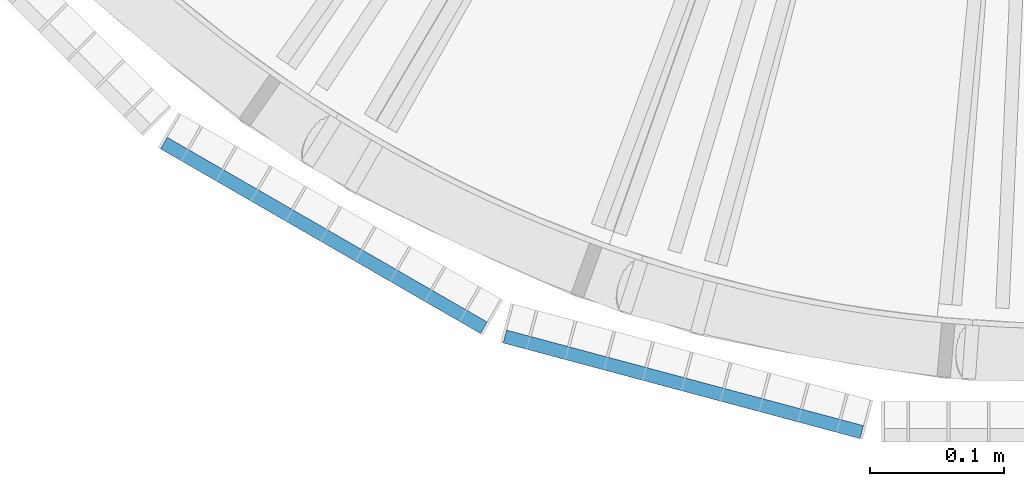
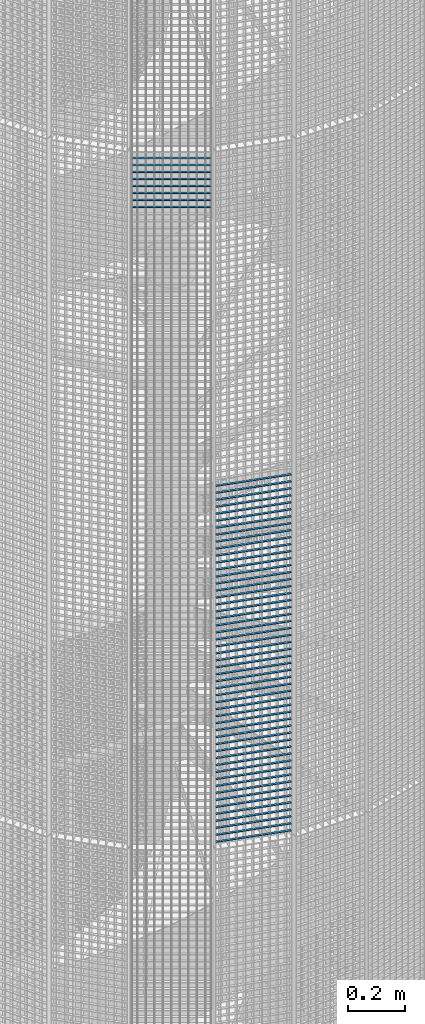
# One storey, part 144 of 1148: 60 beams, 2 elements without a shape of their own.
"""IFC2X3 building model written with IfcOpenShell, lengths in millimetres."""

import ifcopenshell
import ifcopenshell.guid

model = None  # the IFC model being written
_history = None  # IfcOwnerHistory: only IFC2X3 demands one
_inside = {}  # id of a spatial element -> (the spatial element, [elements in it])
_under = {}  # id of a project, library or spatial element -> (it, [spatial elements below it])
_declared = {}  # id of a project -> (the project, [libraries it declares])
_typed = {}  # id of a type object -> (the type object, [elements of that type])
_made_of = {}  # id of a material, layer set ... -> (it, [elements and type objects made of it])


def new_model(schema):
    """Start an empty IFC model of exactly this schema.

    Asked for "IFC4X3", IfcOpenShell would pick the latest addendum, in which some entities
    have other attributes; the version numbers below select the first issue.
    IFC2X3 requires an IfcOwnerHistory on every rooted entity: one is made here for all.
    """
    global model, _history
    if schema == "IFC4X3":
        model = ifcopenshell.file(schema_version=(4, 3, 0, 0))
    else:
        model = ifcopenshell.file(schema=schema)
    _inside.clear()
    _under.clear()
    _declared.clear()
    _typed.clear()
    _made_of.clear()
    _history = None
    if model.schema == "IFC2X3":
        org = make("IfcOrganization", Name="unknown")
        user = make(
            "IfcPersonAndOrganization",
            ThePerson=make("IfcPerson", FamilyName="unknown"),
            TheOrganization=org,
        )
        app = make(
            "IfcApplication",
            ApplicationDeveloper=org,
            Version="unknown",
            ApplicationFullName="unknown",
            ApplicationIdentifier="unknown",
        )
        _history = make(
            "IfcOwnerHistory",
            OwningUser=user,
            OwningApplication=app,
            ChangeAction="ADDED",
            CreationDate=0,
        )
    return model


def make(cls, **values):
    """One entity of the class cls with the attributes given. An attribute that is None is left unset."""
    return model.create_entity(
        cls, **{name: value for name, value in values.items() if value is not None}
    )


def rooted(cls, **values):
    """An entity with a GlobalId (a new one), such as an element, a storey or a relation."""
    return make(cls, GlobalId=ifcopenshell.guid.new(), OwnerHistory=_history, **values)


def si_unit(unit_type, name, prefix=None):
    """IfcSIUnit, for example si_unit("LENGTHUNIT", "METRE", prefix="MILLI")."""
    return make("IfcSIUnit", UnitType=unit_type, Prefix=prefix, Name=name)


def assignment(units):
    """IfcUnitAssignment: the units of a project."""
    return None if units is None else make("IfcUnitAssignment", Units=units)


def point(xyz):
    """IfcCartesianPoint."""
    return None if xyz is None else make("IfcCartesianPoint", Coordinates=xyz)


def direction(xyz):
    """IfcDirection."""
    return None if xyz is None else make("IfcDirection", DirectionRatios=xyz)


def frame(location, z_axis=None, x_axis=None):
    """IfcAxis2Placement3D, a coordinate frame: its origin and axes. An axis left out is left unset."""
    return make(
        "IfcAxis2Placement3D",
        Location=point(location),
        Axis=direction(z_axis),
        RefDirection=direction(x_axis),
    )


def frame_2d(location, x_axis=None):
    """IfcAxis2Placement2D, a coordinate frame in the plane: its origin and x axis."""
    return make(
        "IfcAxis2Placement2D", Location=point(location), RefDirection=direction(x_axis)
    )


def origin_with_axes():
    """The frame at (0, 0, 0) with the z axis (0, 0, 1) and the x axis (1, 0, 0) written out."""
    return frame((0.0, 0.0, 0.0), z_axis=(0.0, 0.0, 1.0), x_axis=(1.0, 0.0, 0.0))


def origin_2d_with_axis():
    """The frame at (0, 0) in the plane with the x axis (1, 0) written out."""
    return frame_2d((0.0, 0.0), x_axis=(1.0, 0.0))


def place(relative_to, where):
    """IfcLocalPlacement: puts the frame where relative to a parent placement (None: the world)."""
    return make(
        "IfcLocalPlacement", PlacementRelTo=relative_to, RelativePlacement=where
    )


def context(
    kind, dimensions, precision=None, world=None, true_north=None, identifier=None
):
    """IfcGeometricRepresentationContext, for example the 3D "Model" context."""
    return make(
        "IfcGeometricRepresentationContext",
        ContextIdentifier=identifier,
        ContextType=kind,
        CoordinateSpaceDimension=dimensions,
        Precision=precision,
        WorldCoordinateSystem=world,
        TrueNorth=true_north,
    )


def subcontext(parent, identifier, kind, view, scale=None):
    """IfcGeometricRepresentationSubContext, for example "Body" below "Model"."""
    return make(
        "IfcGeometricRepresentationSubContext",
        ContextIdentifier=identifier,
        ContextType=kind,
        ParentContext=parent,
        TargetScale=scale,
        TargetView=view,
    )


def project(units=None, contexts=None):
    """IfcProject with its units and contexts."""
    return rooted(
        "IfcProject",
        Name="project",
        RepresentationContexts=contexts,
        UnitsInContext=assignment(units),
    )


def spatial(cls, under=None, at=None, **own):
    """A site, building, storey or space (cls), placed at a placement, below another one or the project."""
    s = rooted(cls, ObjectPlacement=at, **own)
    if under is not None:
        _under.setdefault(under.id(), (under, []))[1].append(s)
    return s


def profile(cls, at=None, kind="AREA", **sizes):
    """A parametric profile (cls). Its sizes go by their IFC names, for example OverallWidth=200.0."""
    return make(cls, ProfileType=kind, Position=at, **sizes)


def rectangle(**sizes):
    """IfcRectangleProfileDef."""
    return profile("IfcRectangleProfileDef", **sizes)


def extrude(swept, where, along, depth):
    """IfcExtrudedAreaSolid: the profile swept, set in the frame where, extruded along a direction by depth."""
    return make(
        "IfcExtrudedAreaSolid",
        SweptArea=swept,
        Position=where,
        ExtrudedDirection=direction(along),
        Depth=depth,
    )


def shape(context_of_items, identifier, shape_type, items):
    """IfcShapeRepresentation: the items that make up one representation, for example the "Body"."""
    return make(
        "IfcShapeRepresentation",
        ContextOfItems=context_of_items,
        RepresentationIdentifier=identifier,
        RepresentationType=shape_type,
        Items=items,
    )


def material(Name=None, Category=None):
    """IfcMaterial."""
    return make("IfcMaterial", Name=Name, Category=Category)


def made_of(thing, what):
    """Note that an element or type object is made of a material, layer set ...; save() writes the relation."""
    if what is not None:
        _made_of.setdefault(what.id(), (what, []))[1].append(thing)
    return thing


def type_object(cls, material=None, **own):
    """A type object (cls), such as IfcWallType, which elements share."""
    return made_of(rooted(cls, **own), material)


def element(
    cls,
    number,
    at=None,
    inside=None,
    cuts=None,
    type_object=None,
    material=None,
    context=None,
    identifier="Body",
    shape_type=None,
    held_by="IfcProductDefinitionShape",
    body=None,
    shapes=None,
    **own,
):
    """One element of the class cls, such as IfcWall. Its Tag is "e" and its number.

    at: its placement. inside: the storey or other place that contains it. cuts: it is an
    opening in that element (IfcRelVoidsElement). A single representation is given by context,
    identifier, shape_type and body (its items); several are given by shapes. held_by: the class
    of the entity that holds the representations. save() writes the other relations.
    """
    e = rooted(cls, Tag="e%d" % number, ObjectPlacement=at, **own)
    if body is not None:
        shapes = [shape(context, identifier, shape_type, body)]
    if shapes is not None:
        e.Representation = make(held_by, Representations=shapes)
    if inside is not None:
        _inside.setdefault(inside.id(), (inside, []))[1].append(e)
    if cuts is not None:
        rooted(
            "IfcRelVoidsElement", RelatingBuildingElement=cuts, RelatedOpeningElement=e
        )
    if type_object is not None:
        _typed.setdefault(type_object.id(), (type_object, []))[1].append(e)
    return made_of(e, material)


def aggregate(whole, parts):
    """IfcRelAggregates: a whole, such as a stair, and the parts it consists of."""
    return rooted("IfcRelAggregates", RelatingObject=whole, RelatedObjects=parts)


def save(model, path):
    """Write the relations noted so far, then the file.

    IfcRelAggregates (storeys below a building ...), IfcRelContainedInSpatialStructure (elements
    in a storey), IfcRelDefinesByType, IfcRelAssociatesMaterial and IfcRelDeclares: one each for
    every whole, place, type object, material and project.
    """
    for whole, parts in _under.values():
        aggregate(whole, parts)
    for where, things in _inside.values():
        rooted(
            "IfcRelContainedInSpatialStructure",
            RelatedElements=things,
            RelatingStructure=where,
        )
    for kind, things in _typed.values():
        rooted("IfcRelDefinesByType", RelatedObjects=things, RelatingType=kind)
    for what, things in _made_of.values():
        rooted("IfcRelAssociatesMaterial", RelatedObjects=things, RelatingMaterial=what)
    for by, libraries in _declared.values():
        rooted("IfcRelDeclares", RelatingContext=by, RelatedDefinitions=libraries)
    model.write(path)


model = new_model("IFC2X3")

# Units and contexts
model_context = context("Model", 3, precision=1e-05, world=origin_with_axes())
body_context = subcontext(model_context, "Body", "Model", "MODEL_VIEW")
ifc_project = project(units=[si_unit("LENGTHUNIT", "METRE", prefix="MILLI"), si_unit("AREAUNIT", "SQUARE_METRE"), si_unit("VOLUMEUNIT", "CUBIC_METRE"), si_unit("MASSUNIT", "GRAM", prefix="KILO"), si_unit("TIMEUNIT", "SECOND"), si_unit("PLANEANGLEUNIT", "RADIAN"), si_unit("SOLIDANGLEUNIT", "STERADIAN"), si_unit("THERMODYNAMICTEMPERATUREUNIT", "DEGREE_CELSIUS"), si_unit("LUMINOUSINTENSITYUNIT", "LUMEN")], contexts=[model_context])

# Site, building, storey
site_placement = place(None, origin_with_axes())
site = spatial("IfcSite", under=ifc_project, at=site_placement, Name="Undefined", CompositionType="ELEMENT")
building_placement = place(site_placement, origin_with_axes())
building = spatial("IfcBuilding", under=site, at=building_placement, Name="Undefined", CompositionType="ELEMENT")
storey_placement = place(building_placement, origin_with_axes())
storey = spatial("IfcBuildingStorey", under=building, at=storey_placement, Name="Undefined", CompositionType="ELEMENT", Elevation=0.0)

# Assembly, beams
assembly_1_placement = place(storey_placement, origin_with_axes())
assembly_1 = element("IfcElementAssembly", 1, at=assembly_1_placement, inside=storey, Name="BORDURE", AssemblyPlace="NOTDEFINED", PredefinedType="NOTDEFINED")
ifc_material = material(Name="STEEL/S235JR")
beam_type = type_object("IfcBeamType", Name="PL2*10", PredefinedType="NOTDEFINED")
beam_1_placement = place(assembly_1_placement, frame((-421.483733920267, -1039.82309522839, 13560.0), z_axis=(-0.258819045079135, -0.965925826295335, 0.0), x_axis=(0.965925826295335, -0.258819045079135, 0.0)))
beam_1 = element("IfcBeam", 2, at=beam_1_placement, type_object=beam_type, material=ifc_material, Name="ENTRETOISE", context=body_context, shape_type="SweptSolid", body=[
    extrude(rectangle(XDim=2.0, YDim=10.0, at=origin_2d_with_axis()), frame((275.999999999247, 9.09494701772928e-13, 1.53210777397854e-14), z_axis=(-1.0, 0.0, 0.0), x_axis=(0.0, -1.0, 0.0)), (0.0, 0.0, 1.0), 276.0),
])
beam_2_placement = place(assembly_1_placement, frame((-421.483733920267, -1039.82309522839, 13530.0), z_axis=(-0.258819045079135, -0.965925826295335, 0.0), x_axis=(0.965925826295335, -0.258819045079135, 0.0)))
beam_2 = element("IfcBeam", 3, at=beam_2_placement, type_object=beam_type, material=ifc_material, Name="ENTRETOISE", context=body_context, shape_type="SweptSolid", body=[
    extrude(rectangle(XDim=2.0, YDim=10.0, at=origin_2d_with_axis()), frame((275.999999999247, 9.09494701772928e-13, 1.53210777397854e-14), z_axis=(-1.0, 0.0, 0.0), x_axis=(0.0, -1.0, 0.0)), (0.0, 0.0, 1.0), 276.0),
])
beam_3_placement = place(assembly_1_placement, frame((-421.483733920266, -1039.82309522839, 13500.0), z_axis=(-0.258819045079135, -0.965925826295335, 0.0), x_axis=(0.965925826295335, -0.258819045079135, 0.0)))
beam_3 = element("IfcBeam", 4, at=beam_3_placement, type_object=beam_type, material=ifc_material, Name="ENTRETOISE", context=body_context, shape_type="SweptSolid", body=[
    extrude(rectangle(XDim=2.0, YDim=10.0, at=origin_2d_with_axis()), frame((275.999999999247, 9.09494701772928e-13, 1.53210777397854e-14), z_axis=(-1.0, 0.0, 0.0), x_axis=(0.0, -1.0, 0.0)), (0.0, 0.0, 1.0), 276.0),
])
beam_4_placement = place(assembly_1_placement, frame((-421.483733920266, -1039.82309522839, 13470.0), z_axis=(-0.258819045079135, -0.965925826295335, 0.0), x_axis=(0.965925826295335, -0.258819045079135, 0.0)))
beam_4 = element("IfcBeam", 5, at=beam_4_placement, type_object=beam_type, material=ifc_material, Name="ENTRETOISE", context=body_context, shape_type="SweptSolid", body=[
    extrude(rectangle(XDim=2.0, YDim=10.0, at=origin_2d_with_axis()), frame((275.999999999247, 9.09494701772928e-13, 1.53210777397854e-14), z_axis=(-1.0, 0.0, 0.0), x_axis=(0.0, -1.0, 0.0)), (0.0, 0.0, 1.0), 276.0),
])
beam_5_placement = place(assembly_1_placement, frame((-421.483733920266, -1039.82309522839, 13440.0), z_axis=(-0.258819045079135, -0.965925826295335, 0.0), x_axis=(0.965925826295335, -0.258819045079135, 0.0)))
beam_5 = element("IfcBeam", 6, at=beam_5_placement, type_object=beam_type, material=ifc_material, Name="ENTRETOISE", context=body_context, shape_type="SweptSolid", body=[
    extrude(rectangle(XDim=2.0, YDim=10.0, at=origin_2d_with_axis()), frame((275.999999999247, 9.09494701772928e-13, 1.53210777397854e-14), z_axis=(-1.0, 0.0, 0.0), x_axis=(0.0, -1.0, 0.0)), (0.0, 0.0, 1.0), 276.0),
])
beam_6_placement = place(assembly_1_placement, frame((-421.483733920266, -1039.82309522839, 13410.0), z_axis=(-0.258819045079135, -0.965925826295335, 0.0), x_axis=(0.965925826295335, -0.258819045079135, 0.0)))
beam_6 = element("IfcBeam", 7, at=beam_6_placement, type_object=beam_type, material=ifc_material, Name="ENTRETOISE", context=body_context, shape_type="SweptSolid", body=[
    extrude(rectangle(XDim=2.0, YDim=10.0, at=origin_2d_with_axis()), frame((275.999999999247, 9.09494701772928e-13, 1.53210777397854e-14), z_axis=(-1.0, 0.0, 0.0), x_axis=(0.0, -1.0, 0.0)), (0.0, 0.0, 1.0), 276.0),
])
beam_7_placement = place(assembly_1_placement, frame((-421.483733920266, -1039.82309522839, 13380.0), z_axis=(-0.258819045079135, -0.965925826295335, 0.0), x_axis=(0.965925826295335, -0.258819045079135, 0.0)))
beam_7 = element("IfcBeam", 8, at=beam_7_placement, type_object=beam_type, material=ifc_material, Name="ENTRETOISE", context=body_context, shape_type="SweptSolid", body=[
    extrude(rectangle(XDim=2.0, YDim=10.0, at=origin_2d_with_axis()), frame((275.999999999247, 9.09494701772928e-13, 1.53210777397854e-14), z_axis=(-1.0, 0.0, 0.0), x_axis=(0.0, -1.0, 0.0)), (0.0, 0.0, 1.0), 276.0),
])
beam_8_placement = place(assembly_1_placement, frame((-421.483733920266, -1039.82309522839, 13350.0), z_axis=(-0.258819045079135, -0.965925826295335, 0.0), x_axis=(0.965925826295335, -0.258819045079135, 0.0)))
beam_8 = element("IfcBeam", 9, at=beam_8_placement, type_object=beam_type, material=ifc_material, Name="ENTRETOISE", context=body_context, shape_type="SweptSolid", body=[
    extrude(rectangle(XDim=2.0, YDim=10.0, at=origin_2d_with_axis()), frame((275.999999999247, 9.09494701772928e-13, 1.53210777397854e-14), z_axis=(-1.0, 0.0, 0.0), x_axis=(0.0, -1.0, 0.0)), (0.0, 0.0, 1.0), 276.0),
])
beam_9_placement = place(assembly_1_placement, frame((-421.483733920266, -1039.82309522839, 13320.0), z_axis=(-0.258819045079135, -0.965925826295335, 0.0), x_axis=(0.965925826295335, -0.258819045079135, 0.0)))
beam_9 = element("IfcBeam", 10, at=beam_9_placement, type_object=beam_type, material=ifc_material, Name="ENTRETOISE", context=body_context, shape_type="SweptSolid", body=[
    extrude(rectangle(XDim=2.0, YDim=10.0, at=origin_2d_with_axis()), frame((275.999999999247, 9.09494701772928e-13, 1.53210777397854e-14), z_axis=(-1.0, 0.0, 0.0), x_axis=(0.0, -1.0, 0.0)), (0.0, 0.0, 1.0), 276.0),
])
beam_10_placement = place(assembly_1_placement, frame((-421.483733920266, -1039.82309522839, 13290.0), z_axis=(-0.258819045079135, -0.965925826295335, 0.0), x_axis=(0.965925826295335, -0.258819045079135, 0.0)))
beam_10 = element("IfcBeam", 11, at=beam_10_placement, type_object=beam_type, material=ifc_material, Name="ENTRETOISE", context=body_context, shape_type="SweptSolid", body=[
    extrude(rectangle(XDim=2.0, YDim=10.0, at=origin_2d_with_axis()), frame((275.999999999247, 9.09494701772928e-13, 1.53210777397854e-14), z_axis=(-1.0, 0.0, 0.0), x_axis=(0.0, -1.0, 0.0)), (0.0, 0.0, 1.0), 276.0),
])
beam_11_placement = place(assembly_1_placement, frame((-421.483733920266, -1039.82309522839, 13260.0), z_axis=(-0.258819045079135, -0.965925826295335, 0.0), x_axis=(0.965925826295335, -0.258819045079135, 0.0)))
beam_11 = element("IfcBeam", 12, at=beam_11_placement, type_object=beam_type, material=ifc_material, Name="ENTRETOISE", context=body_context, shape_type="SweptSolid", body=[
    extrude(rectangle(XDim=2.0, YDim=10.0, at=origin_2d_with_axis()), frame((275.999999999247, 9.09494701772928e-13, 1.53210777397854e-14), z_axis=(-1.0, 0.0, 0.0), x_axis=(0.0, -1.0, 0.0)), (0.0, 0.0, 1.0), 276.0),
])
beam_12_placement = place(assembly_1_placement, frame((-421.483733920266, -1039.82309522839, 13230.0), z_axis=(-0.258819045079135, -0.965925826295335, 0.0), x_axis=(0.965925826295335, -0.258819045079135, 0.0)))
beam_12 = element("IfcBeam", 13, at=beam_12_placement, type_object=beam_type, material=ifc_material, Name="ENTRETOISE", context=body_context, shape_type="SweptSolid", body=[
    extrude(rectangle(XDim=2.0, YDim=10.0, at=origin_2d_with_axis()), frame((275.999999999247, 9.09494701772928e-13, 1.53210777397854e-14), z_axis=(-1.0, 0.0, 0.0), x_axis=(0.0, -1.0, 0.0)), (0.0, 0.0, 1.0), 276.0),
])
beam_13_placement = place(assembly_1_placement, frame((-421.483733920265, -1039.82309522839, 13200.0), z_axis=(-0.258819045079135, -0.965925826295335, 0.0), x_axis=(0.965925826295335, -0.258819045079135, 0.0)))
beam_13 = element("IfcBeam", 14, at=beam_13_placement, type_object=beam_type, material=ifc_material, Name="ENTRETOISE", context=body_context, shape_type="SweptSolid", body=[
    extrude(rectangle(XDim=2.0, YDim=10.0, at=origin_2d_with_axis()), frame((275.999999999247, 9.09494701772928e-13, 1.53210777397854e-14), z_axis=(-1.0, 0.0, 0.0), x_axis=(0.0, -1.0, 0.0)), (0.0, 0.0, 1.0), 276.0),
])
beam_14_placement = place(assembly_1_placement, frame((-421.483733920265, -1039.82309522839, 13170.0), z_axis=(-0.258819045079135, -0.965925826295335, 0.0), x_axis=(0.965925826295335, -0.258819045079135, 0.0)))
beam_14 = element("IfcBeam", 15, at=beam_14_placement, type_object=beam_type, material=ifc_material, Name="ENTRETOISE", context=body_context, shape_type="SweptSolid", body=[
    extrude(rectangle(XDim=2.0, YDim=10.0, at=origin_2d_with_axis()), frame((275.999999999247, 9.09494701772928e-13, 1.53210777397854e-14), z_axis=(-1.0, 0.0, 0.0), x_axis=(0.0, -1.0, 0.0)), (0.0, 0.0, 1.0), 276.0),
])
beam_15_placement = place(assembly_1_placement, frame((-421.483733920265, -1039.82309522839, 13140.0), z_axis=(-0.258819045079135, -0.965925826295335, 0.0), x_axis=(0.965925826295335, -0.258819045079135, 0.0)))
beam_15 = element("IfcBeam", 16, at=beam_15_placement, type_object=beam_type, material=ifc_material, Name="ENTRETOISE", context=body_context, shape_type="SweptSolid", body=[
    extrude(rectangle(XDim=2.0, YDim=10.0, at=origin_2d_with_axis()), frame((275.999999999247, 9.09494701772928e-13, 1.53210777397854e-14), z_axis=(-1.0, 0.0, 0.0), x_axis=(0.0, -1.0, 0.0)), (0.0, 0.0, 1.0), 276.0),
])
beam_16_placement = place(assembly_1_placement, frame((-421.483733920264, -1039.82309522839, 12720.0), z_axis=(-0.258819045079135, -0.965925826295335, 0.0), x_axis=(0.965925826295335, -0.258819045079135, 0.0)))
beam_16 = element("IfcBeam", 17, at=beam_16_placement, type_object=beam_type, material=ifc_material, Name="ENTRETOISE", context=body_context, shape_type="SweptSolid", body=[
    extrude(rectangle(XDim=2.0, YDim=10.0, at=origin_2d_with_axis()), frame((275.999999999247, 9.09494701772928e-13, 1.53210777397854e-14), z_axis=(-1.0, 0.0, 0.0), x_axis=(0.0, -1.0, 0.0)), (0.0, 0.0, 1.0), 276.0),
])
beam_17_placement = place(assembly_1_placement, frame((-421.483733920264, -1039.82309522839, 12690.0), z_axis=(-0.258819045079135, -0.965925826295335, 0.0), x_axis=(0.965925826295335, -0.258819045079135, 0.0)))
beam_17 = element("IfcBeam", 18, at=beam_17_placement, type_object=beam_type, material=ifc_material, Name="ENTRETOISE", context=body_context, shape_type="SweptSolid", body=[
    extrude(rectangle(XDim=2.0, YDim=10.0, at=origin_2d_with_axis()), frame((275.999999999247, 9.09494701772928e-13, 1.53210777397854e-14), z_axis=(-1.0, 0.0, 0.0), x_axis=(0.0, -1.0, 0.0)), (0.0, 0.0, 1.0), 276.0),
])
beam_18_placement = place(assembly_1_placement, frame((-421.483733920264, -1039.82309522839, 12750.0), z_axis=(-0.258819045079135, -0.965925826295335, 0.0), x_axis=(0.965925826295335, -0.258819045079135, 0.0)))
beam_18 = element("IfcBeam", 19, at=beam_18_placement, type_object=beam_type, material=ifc_material, Name="ENTRETOISE", context=body_context, shape_type="SweptSolid", body=[
    extrude(rectangle(XDim=2.0, YDim=10.0, at=origin_2d_with_axis()), frame((275.999999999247, 9.09494701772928e-13, 1.53210777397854e-14), z_axis=(-1.0, 0.0, 0.0), x_axis=(0.0, -1.0, 0.0)), (0.0, 0.0, 1.0), 276.0),
])
beam_19_placement = place(assembly_1_placement, frame((-421.483733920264, -1039.82309522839, 12660.0), z_axis=(-0.258819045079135, -0.965925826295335, 0.0), x_axis=(0.965925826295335, -0.258819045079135, 0.0)))
beam_19 = element("IfcBeam", 20, at=beam_19_placement, type_object=beam_type, material=ifc_material, Name="ENTRETOISE", context=body_context, shape_type="SweptSolid", body=[
    extrude(rectangle(XDim=2.0, YDim=10.0, at=origin_2d_with_axis()), frame((275.999999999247, 9.09494701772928e-13, 1.53210777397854e-14), z_axis=(-1.0, 0.0, 0.0), x_axis=(0.0, -1.0, 0.0)), (0.0, 0.0, 1.0), 276.0),
])
beam_20_placement = place(assembly_1_placement, frame((-421.483733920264, -1039.82309522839, 12630.0), z_axis=(-0.258819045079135, -0.965925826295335, 0.0), x_axis=(0.965925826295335, -0.258819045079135, 0.0)))
beam_20 = element("IfcBeam", 21, at=beam_20_placement, type_object=beam_type, material=ifc_material, Name="ENTRETOISE", context=body_context, shape_type="SweptSolid", body=[
    extrude(rectangle(XDim=2.0, YDim=10.0, at=origin_2d_with_axis()), frame((275.999999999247, 9.09494701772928e-13, 1.53210777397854e-14), z_axis=(-1.0, 0.0, 0.0), x_axis=(0.0, -1.0, 0.0)), (0.0, 0.0, 1.0), 276.0),
])
beam_21_placement = place(assembly_1_placement, frame((-421.483733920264, -1039.82309522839, 12780.0), z_axis=(-0.258819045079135, -0.965925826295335, 0.0), x_axis=(0.965925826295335, -0.258819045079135, 0.0)))
beam_21 = element("IfcBeam", 22, at=beam_21_placement, type_object=beam_type, material=ifc_material, Name="ENTRETOISE", context=body_context, shape_type="SweptSolid", body=[
    extrude(rectangle(XDim=2.0, YDim=10.0, at=origin_2d_with_axis()), frame((275.999999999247, 9.09494701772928e-13, 1.53210777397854e-14), z_axis=(-1.0, 0.0, 0.0), x_axis=(0.0, -1.0, 0.0)), (0.0, 0.0, 1.0), 276.0),
])
beam_22_placement = place(assembly_1_placement, frame((-421.483733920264, -1039.82309522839, 12600.0), z_axis=(-0.258819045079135, -0.965925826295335, 0.0), x_axis=(0.965925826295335, -0.258819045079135, 0.0)))
beam_22 = element("IfcBeam", 23, at=beam_22_placement, type_object=beam_type, material=ifc_material, Name="ENTRETOISE", context=body_context, shape_type="SweptSolid", body=[
    extrude(rectangle(XDim=2.0, YDim=10.0, at=origin_2d_with_axis()), frame((275.999999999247, 9.09494701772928e-13, 1.53210777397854e-14), z_axis=(-1.0, 0.0, 0.0), x_axis=(0.0, -1.0, 0.0)), (0.0, 0.0, 1.0), 276.0),
])
beam_23_placement = place(assembly_1_placement, frame((-421.483733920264, -1039.82309522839, 12810.0), z_axis=(-0.258819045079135, -0.965925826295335, 0.0), x_axis=(0.965925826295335, -0.258819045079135, 0.0)))
beam_23 = element("IfcBeam", 24, at=beam_23_placement, type_object=beam_type, material=ifc_material, Name="ENTRETOISE", context=body_context, shape_type="SweptSolid", body=[
    extrude(rectangle(XDim=2.0, YDim=10.0, at=origin_2d_with_axis()), frame((275.999999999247, 9.09494701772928e-13, 1.53210777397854e-14), z_axis=(-1.0, 0.0, 0.0), x_axis=(0.0, -1.0, 0.0)), (0.0, 0.0, 1.0), 276.0),
])
beam_24_placement = place(assembly_1_placement, frame((-421.483733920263, -1039.82309522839, 12570.0), z_axis=(-0.258819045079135, -0.965925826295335, 0.0), x_axis=(0.965925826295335, -0.258819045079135, 0.0)))
beam_24 = element("IfcBeam", 25, at=beam_24_placement, type_object=beam_type, material=ifc_material, Name="ENTRETOISE", context=body_context, shape_type="SweptSolid", body=[
    extrude(rectangle(XDim=2.0, YDim=10.0, at=origin_2d_with_axis()), frame((275.999999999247, 9.09494701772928e-13, 1.53210777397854e-14), z_axis=(-1.0, 0.0, 0.0), x_axis=(0.0, -1.0, 0.0)), (0.0, 0.0, 1.0), 276.0),
])
beam_25_placement = place(assembly_1_placement, frame((-421.483733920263, -1039.82309522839, 12540.0), z_axis=(-0.258819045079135, -0.965925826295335, 0.0), x_axis=(0.965925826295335, -0.258819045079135, 0.0)))
beam_25 = element("IfcBeam", 26, at=beam_25_placement, type_object=beam_type, material=ifc_material, Name="ENTRETOISE", context=body_context, shape_type="SweptSolid", body=[
    extrude(rectangle(XDim=2.0, YDim=10.0, at=origin_2d_with_axis()), frame((275.999999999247, 9.09494701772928e-13, 1.53210777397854e-14), z_axis=(-1.0, 0.0, 0.0), x_axis=(0.0, -1.0, 0.0)), (0.0, 0.0, 1.0), 276.0),
])
beam_26_placement = place(assembly_1_placement, frame((-421.483733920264, -1039.82309522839, 12840.0), z_axis=(-0.258819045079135, -0.965925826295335, 0.0), x_axis=(0.965925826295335, -0.258819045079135, 0.0)))
beam_26 = element("IfcBeam", 27, at=beam_26_placement, type_object=beam_type, material=ifc_material, Name="ENTRETOISE", context=body_context, shape_type="SweptSolid", body=[
    extrude(rectangle(XDim=2.0, YDim=10.0, at=origin_2d_with_axis()), frame((275.999999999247, 9.09494701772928e-13, 1.53210777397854e-14), z_axis=(-1.0, 0.0, 0.0), x_axis=(0.0, -1.0, 0.0)), (0.0, 0.0, 1.0), 276.0),
])
beam_27_placement = place(assembly_1_placement, frame((-421.483733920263, -1039.82309522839, 12510.0), z_axis=(-0.258819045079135, -0.965925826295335, 0.0), x_axis=(0.965925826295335, -0.258819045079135, 0.0)))
beam_27 = element("IfcBeam", 28, at=beam_27_placement, type_object=beam_type, material=ifc_material, Name="ENTRETOISE", context=body_context, shape_type="SweptSolid", body=[
    extrude(rectangle(XDim=2.0, YDim=10.0, at=origin_2d_with_axis()), frame((275.999999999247, 9.09494701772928e-13, 1.53210777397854e-14), z_axis=(-1.0, 0.0, 0.0), x_axis=(0.0, -1.0, 0.0)), (0.0, 0.0, 1.0), 276.0),
])
beam_28_placement = place(assembly_1_placement, frame((-421.483733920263, -1039.82309522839, 12480.0), z_axis=(-0.258819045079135, -0.965925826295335, 0.0), x_axis=(0.965925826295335, -0.258819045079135, 0.0)))
beam_28 = element("IfcBeam", 29, at=beam_28_placement, type_object=beam_type, material=ifc_material, Name="ENTRETOISE", context=body_context, shape_type="SweptSolid", body=[
    extrude(rectangle(XDim=2.0, YDim=10.0, at=origin_2d_with_axis()), frame((275.999999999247, 9.09494701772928e-13, 1.53210777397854e-14), z_axis=(-1.0, 0.0, 0.0), x_axis=(0.0, -1.0, 0.0)), (0.0, 0.0, 1.0), 276.0),
])
beam_29_placement = place(assembly_1_placement, frame((-421.483733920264, -1039.82309522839, 12870.0), z_axis=(-0.258819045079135, -0.965925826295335, 0.0), x_axis=(0.965925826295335, -0.258819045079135, 0.0)))
beam_29 = element("IfcBeam", 30, at=beam_29_placement, type_object=beam_type, material=ifc_material, Name="ENTRETOISE", context=body_context, shape_type="SweptSolid", body=[
    extrude(rectangle(XDim=2.0, YDim=10.0, at=origin_2d_with_axis()), frame((275.999999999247, 9.09494701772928e-13, 1.53210777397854e-14), z_axis=(-1.0, 0.0, 0.0), x_axis=(0.0, -1.0, 0.0)), (0.0, 0.0, 1.0), 276.0),
])
beam_30_placement = place(assembly_1_placement, frame((-421.483733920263, -1039.82309522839, 12450.0), z_axis=(-0.258819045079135, -0.965925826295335, 0.0), x_axis=(0.965925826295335, -0.258819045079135, 0.0)))
beam_30 = element("IfcBeam", 31, at=beam_30_placement, type_object=beam_type, material=ifc_material, Name="ENTRETOISE", context=body_context, shape_type="SweptSolid", body=[
    extrude(rectangle(XDim=2.0, YDim=10.0, at=origin_2d_with_axis()), frame((275.999999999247, 9.09494701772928e-13, 1.53210777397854e-14), z_axis=(-1.0, 0.0, 0.0), x_axis=(0.0, -1.0, 0.0)), (0.0, 0.0, 1.0), 276.0),
])
beam_31_placement = place(assembly_1_placement, frame((-421.483733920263, -1039.82309522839, 12420.0), z_axis=(-0.258819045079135, -0.965925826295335, 0.0), x_axis=(0.965925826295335, -0.258819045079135, 0.0)))
beam_31 = element("IfcBeam", 32, at=beam_31_placement, type_object=beam_type, material=ifc_material, Name="ENTRETOISE", context=body_context, shape_type="SweptSolid", body=[
    extrude(rectangle(XDim=2.0, YDim=10.0, at=origin_2d_with_axis()), frame((275.999999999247, 9.09494701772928e-13, 1.53210777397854e-14), z_axis=(-1.0, 0.0, 0.0), x_axis=(0.0, -1.0, 0.0)), (0.0, 0.0, 1.0), 276.0),
])
beam_32_placement = place(assembly_1_placement, frame((-421.483733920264, -1039.82309522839, 12900.0), z_axis=(-0.258819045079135, -0.965925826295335, 0.0), x_axis=(0.965925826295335, -0.258819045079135, 0.0)))
beam_32 = element("IfcBeam", 33, at=beam_32_placement, type_object=beam_type, material=ifc_material, Name="ENTRETOISE", context=body_context, shape_type="SweptSolid", body=[
    extrude(rectangle(XDim=2.0, YDim=10.0, at=origin_2d_with_axis()), frame((275.999999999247, 9.09494701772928e-13, 1.53210777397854e-14), z_axis=(-1.0, 0.0, 0.0), x_axis=(0.0, -1.0, 0.0)), (0.0, 0.0, 1.0), 276.0),
])
beam_33_placement = place(assembly_1_placement, frame((-421.483733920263, -1039.82309522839, 12390.0), z_axis=(-0.258819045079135, -0.965925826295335, 0.0), x_axis=(0.965925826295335, -0.258819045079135, 0.0)))
beam_33 = element("IfcBeam", 34, at=beam_33_placement, type_object=beam_type, material=ifc_material, Name="ENTRETOISE", context=body_context, shape_type="SweptSolid", body=[
    extrude(rectangle(XDim=2.0, YDim=10.0, at=origin_2d_with_axis()), frame((275.999999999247, 9.09494701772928e-13, 1.53210777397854e-14), z_axis=(-1.0, 0.0, 0.0), x_axis=(0.0, -1.0, 0.0)), (0.0, 0.0, 1.0), 276.0),
])
beam_34_placement = place(assembly_1_placement, frame((-421.483733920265, -1039.82309522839, 12930.0), z_axis=(-0.258819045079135, -0.965925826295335, 0.0), x_axis=(0.965925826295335, -0.258819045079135, 0.0)))
beam_34 = element("IfcBeam", 35, at=beam_34_placement, type_object=beam_type, material=ifc_material, Name="ENTRETOISE", context=body_context, shape_type="SweptSolid", body=[
    extrude(rectangle(XDim=2.0, YDim=10.0, at=origin_2d_with_axis()), frame((275.999999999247, 9.09494701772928e-13, 1.53210777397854e-14), z_axis=(-1.0, 0.0, 0.0), x_axis=(0.0, -1.0, 0.0)), (0.0, 0.0, 1.0), 276.0),
])
beam_35_placement = place(assembly_1_placement, frame((-421.483733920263, -1039.82309522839, 12360.0), z_axis=(-0.258819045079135, -0.965925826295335, 0.0), x_axis=(0.965925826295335, -0.258819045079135, 0.0)))
beam_35 = element("IfcBeam", 36, at=beam_35_placement, type_object=beam_type, material=ifc_material, Name="ENTRETOISE", context=body_context, shape_type="SweptSolid", body=[
    extrude(rectangle(XDim=2.0, YDim=10.0, at=origin_2d_with_axis()), frame((275.999999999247, 9.09494701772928e-13, 1.53210777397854e-14), z_axis=(-1.0, 0.0, 0.0), x_axis=(0.0, -1.0, 0.0)), (0.0, 0.0, 1.0), 276.0),
])
beam_36_placement = place(assembly_1_placement, frame((-421.483733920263, -1039.82309522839, 12330.0), z_axis=(-0.258819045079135, -0.965925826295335, 0.0), x_axis=(0.965925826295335, -0.258819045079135, 0.0)))
beam_36 = element("IfcBeam", 37, at=beam_36_placement, type_object=beam_type, material=ifc_material, Name="ENTRETOISE", context=body_context, shape_type="SweptSolid", body=[
    extrude(rectangle(XDim=2.0, YDim=10.0, at=origin_2d_with_axis()), frame((275.999999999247, 9.09494701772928e-13, 1.53210777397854e-14), z_axis=(-1.0, 0.0, 0.0), x_axis=(0.0, -1.0, 0.0)), (0.0, 0.0, 1.0), 276.0),
])
beam_37_placement = place(assembly_1_placement, frame((-421.483733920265, -1039.82309522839, 12960.0), z_axis=(-0.258819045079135, -0.965925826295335, 0.0), x_axis=(0.965925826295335, -0.258819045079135, 0.0)))
beam_37 = element("IfcBeam", 38, at=beam_37_placement, type_object=beam_type, material=ifc_material, Name="ENTRETOISE", context=body_context, shape_type="SweptSolid", body=[
    extrude(rectangle(XDim=2.0, YDim=10.0, at=origin_2d_with_axis()), frame((275.999999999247, 9.09494701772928e-13, 1.53210777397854e-14), z_axis=(-1.0, 0.0, 0.0), x_axis=(0.0, -1.0, 0.0)), (0.0, 0.0, 1.0), 276.0),
])
beam_38_placement = place(assembly_1_placement, frame((-421.483733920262, -1039.82309522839, 12300.0), z_axis=(-0.258819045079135, -0.965925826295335, 0.0), x_axis=(0.965925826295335, -0.258819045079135, 0.0)))
beam_38 = element("IfcBeam", 39, at=beam_38_placement, type_object=beam_type, material=ifc_material, Name="ENTRETOISE", context=body_context, shape_type="SweptSolid", body=[
    extrude(rectangle(XDim=2.0, YDim=10.0, at=origin_2d_with_axis()), frame((275.999999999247, 9.09494701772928e-13, 1.53210777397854e-14), z_axis=(-1.0, 0.0, 0.0), x_axis=(0.0, -1.0, 0.0)), (0.0, 0.0, 1.0), 276.0),
])
beam_39_placement = place(assembly_1_placement, frame((-421.483733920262, -1039.82309522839, 12270.0), z_axis=(-0.258819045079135, -0.965925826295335, 0.0), x_axis=(0.965925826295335, -0.258819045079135, 0.0)))
beam_39 = element("IfcBeam", 40, at=beam_39_placement, type_object=beam_type, material=ifc_material, Name="ENTRETOISE", context=body_context, shape_type="SweptSolid", body=[
    extrude(rectangle(XDim=2.0, YDim=10.0, at=origin_2d_with_axis()), frame((275.999999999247, 9.09494701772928e-13, 1.53210777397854e-14), z_axis=(-1.0, 0.0, 0.0), x_axis=(0.0, -1.0, 0.0)), (0.0, 0.0, 1.0), 276.0),
])
beam_40_placement = place(assembly_1_placement, frame((-421.483733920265, -1039.82309522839, 12990.0), z_axis=(-0.258819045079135, -0.965925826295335, 0.0), x_axis=(0.965925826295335, -0.258819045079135, 0.0)))
beam_40 = element("IfcBeam", 41, at=beam_40_placement, type_object=beam_type, material=ifc_material, Name="ENTRETOISE", context=body_context, shape_type="SweptSolid", body=[
    extrude(rectangle(XDim=2.0, YDim=10.0, at=origin_2d_with_axis()), frame((275.999999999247, 9.09494701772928e-13, 1.53210777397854e-14), z_axis=(-1.0, 0.0, 0.0), x_axis=(0.0, -1.0, 0.0)), (0.0, 0.0, 1.0), 276.0),
])
beam_41_placement = place(assembly_1_placement, frame((-421.483733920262, -1039.82309522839, 12240.0), z_axis=(-0.258819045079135, -0.965925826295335, 0.0), x_axis=(0.965925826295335, -0.258819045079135, 0.0)))
beam_41 = element("IfcBeam", 42, at=beam_41_placement, type_object=beam_type, material=ifc_material, Name="ENTRETOISE", context=body_context, shape_type="SweptSolid", body=[
    extrude(rectangle(XDim=2.0, YDim=10.0, at=origin_2d_with_axis()), frame((275.999999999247, 9.09494701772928e-13, 1.53210777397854e-14), z_axis=(-1.0, 0.0, 0.0), x_axis=(0.0, -1.0, 0.0)), (0.0, 0.0, 1.0), 276.0),
])
beam_42_placement = place(assembly_1_placement, frame((-421.483733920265, -1039.82309522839, 13020.0), z_axis=(-0.258819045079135, -0.965925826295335, 0.0), x_axis=(0.965925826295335, -0.258819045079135, 0.0)))
beam_42 = element("IfcBeam", 43, at=beam_42_placement, type_object=beam_type, material=ifc_material, Name="ENTRETOISE", context=body_context, shape_type="SweptSolid", body=[
    extrude(rectangle(XDim=2.0, YDim=10.0, at=origin_2d_with_axis()), frame((275.999999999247, 9.09494701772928e-13, 1.53210777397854e-14), z_axis=(-1.0, 0.0, 0.0), x_axis=(0.0, -1.0, 0.0)), (0.0, 0.0, 1.0), 276.0),
])
beam_43_placement = place(assembly_1_placement, frame((-421.483733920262, -1039.82309522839, 12210.0), z_axis=(-0.258819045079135, -0.965925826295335, 0.0), x_axis=(0.965925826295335, -0.258819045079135, 0.0)))
beam_43 = element("IfcBeam", 44, at=beam_43_placement, type_object=beam_type, material=ifc_material, Name="ENTRETOISE", context=body_context, shape_type="SweptSolid", body=[
    extrude(rectangle(XDim=2.0, YDim=10.0, at=origin_2d_with_axis()), frame((275.999999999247, 9.09494701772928e-13, 1.53210777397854e-14), z_axis=(-1.0, 0.0, 0.0), x_axis=(0.0, -1.0, 0.0)), (0.0, 0.0, 1.0), 276.0),
])
beam_44_placement = place(assembly_1_placement, frame((-421.483733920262, -1039.82309522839, 12180.0), z_axis=(-0.258819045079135, -0.965925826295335, 0.0), x_axis=(0.965925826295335, -0.258819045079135, 0.0)))
beam_44 = element("IfcBeam", 45, at=beam_44_placement, type_object=beam_type, material=ifc_material, Name="ENTRETOISE", context=body_context, shape_type="SweptSolid", body=[
    extrude(rectangle(XDim=2.0, YDim=10.0, at=origin_2d_with_axis()), frame((275.999999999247, 9.09494701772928e-13, 1.53210777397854e-14), z_axis=(-1.0, 0.0, 0.0), x_axis=(0.0, -1.0, 0.0)), (0.0, 0.0, 1.0), 276.0),
])
beam_45_placement = place(assembly_1_placement, frame((-421.483733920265, -1039.82309522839, 13050.0), z_axis=(-0.258819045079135, -0.965925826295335, 0.0), x_axis=(0.965925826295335, -0.258819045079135, 0.0)))
beam_45 = element("IfcBeam", 46, at=beam_45_placement, type_object=beam_type, material=ifc_material, Name="ENTRETOISE", context=body_context, shape_type="SweptSolid", body=[
    extrude(rectangle(XDim=2.0, YDim=10.0, at=origin_2d_with_axis()), frame((275.999999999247, 9.09494701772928e-13, 1.53210777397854e-14), z_axis=(-1.0, 0.0, 0.0), x_axis=(0.0, -1.0, 0.0)), (0.0, 0.0, 1.0), 276.0),
])
beam_46_placement = place(assembly_1_placement, frame((-421.483733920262, -1039.82309522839, 12150.0), z_axis=(-0.258819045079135, -0.965925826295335, 0.0), x_axis=(0.965925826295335, -0.258819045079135, 0.0)))
beam_46 = element("IfcBeam", 47, at=beam_46_placement, type_object=beam_type, material=ifc_material, Name="ENTRETOISE", context=body_context, shape_type="SweptSolid", body=[
    extrude(rectangle(XDim=2.0, YDim=10.0, at=origin_2d_with_axis()), frame((275.999999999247, 9.09494701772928e-13, 1.53210777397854e-14), z_axis=(-1.0, 0.0, 0.0), x_axis=(0.0, -1.0, 0.0)), (0.0, 0.0, 1.0), 276.0),
])
beam_47_placement = place(assembly_1_placement, frame((-421.483733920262, -1039.82309522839, 12120.0), z_axis=(-0.258819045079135, -0.965925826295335, 0.0), x_axis=(0.965925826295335, -0.258819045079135, 0.0)))
beam_47 = element("IfcBeam", 48, at=beam_47_placement, type_object=beam_type, material=ifc_material, Name="ENTRETOISE", context=body_context, shape_type="SweptSolid", body=[
    extrude(rectangle(XDim=2.0, YDim=10.0, at=origin_2d_with_axis()), frame((275.999999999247, 9.09494701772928e-13, 1.53210777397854e-14), z_axis=(-1.0, 0.0, 0.0), x_axis=(0.0, -1.0, 0.0)), (0.0, 0.0, 1.0), 276.0),
])
beam_48_placement = place(assembly_1_placement, frame((-421.483733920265, -1039.82309522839, 13080.0), z_axis=(-0.258819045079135, -0.965925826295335, 0.0), x_axis=(0.965925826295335, -0.258819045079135, 0.0)))
beam_48 = element("IfcBeam", 49, at=beam_48_placement, type_object=beam_type, material=ifc_material, Name="ENTRETOISE", context=body_context, shape_type="SweptSolid", body=[
    extrude(rectangle(XDim=2.0, YDim=10.0, at=origin_2d_with_axis()), frame((275.999999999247, 9.09494701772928e-13, 1.53210777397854e-14), z_axis=(-1.0, 0.0, 0.0), x_axis=(0.0, -1.0, 0.0)), (0.0, 0.0, 1.0), 276.0),
])
beam_49_placement = place(assembly_1_placement, frame((-421.483733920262, -1039.82309522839, 12090.0), z_axis=(-0.258819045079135, -0.965925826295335, 0.0), x_axis=(0.965925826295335, -0.258819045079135, 0.0)))
beam_49 = element("IfcBeam", 50, at=beam_49_placement, type_object=beam_type, material=ifc_material, Name="ENTRETOISE", context=body_context, shape_type="SweptSolid", body=[
    extrude(rectangle(XDim=2.0, YDim=10.0, at=origin_2d_with_axis()), frame((275.999999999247, 9.09494701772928e-13, 1.53210777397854e-14), z_axis=(-1.0, 0.0, 0.0), x_axis=(0.0, -1.0, 0.0)), (0.0, 0.0, 1.0), 276.0),
])
beam_50_placement = place(assembly_1_placement, frame((-421.483733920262, -1039.82309522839, 12060.0), z_axis=(-0.258819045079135, -0.965925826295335, 0.0), x_axis=(0.965925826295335, -0.258819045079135, 0.0)))
beam_50 = element("IfcBeam", 51, at=beam_50_placement, type_object=beam_type, material=ifc_material, Name="ENTRETOISE", context=body_context, shape_type="SweptSolid", body=[
    extrude(rectangle(XDim=2.0, YDim=10.0, at=origin_2d_with_axis()), frame((275.999999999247, 9.09494701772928e-13, 1.53210777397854e-14), z_axis=(-1.0, 0.0, 0.0), x_axis=(0.0, -1.0, 0.0)), (0.0, 0.0, 1.0), 276.0),
])
beam_51_placement = place(assembly_1_placement, frame((-421.483733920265, -1039.82309522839, 13110.0), z_axis=(-0.258819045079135, -0.965925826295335, 0.0), x_axis=(0.965925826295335, -0.258819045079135, 0.0)))
beam_51 = element("IfcBeam", 52, at=beam_51_placement, type_object=beam_type, material=ifc_material, Name="ENTRETOISE", context=body_context, shape_type="SweptSolid", body=[
    extrude(rectangle(XDim=2.0, YDim=10.0, at=origin_2d_with_axis()), frame((275.999999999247, 9.09494701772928e-13, 1.53210777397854e-14), z_axis=(-1.0, 0.0, 0.0), x_axis=(0.0, -1.0, 0.0)), (0.0, 0.0, 1.0), 276.0),
])
beam_52_placement = place(assembly_1_placement, frame((-421.48373392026, -1039.82309522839, 12030.0), z_axis=(-0.258819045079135, -0.965925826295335, 0.0), x_axis=(0.965925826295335, -0.258819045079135, 0.0)))
beam_52 = element("IfcBeam", 53, at=beam_52_placement, type_object=beam_type, material=ifc_material, Name="ENTRETOISE", context=body_context, shape_type="SweptSolid", body=[
    extrude(rectangle(XDim=2.0, YDim=10.0, at=origin_2d_with_axis()), frame((275.999999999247, 9.09494701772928e-13, 1.53210777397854e-14), z_axis=(-1.0, 0.0, 0.0), x_axis=(0.0, -1.0, 0.0)), (0.0, 0.0, 1.0), 276.0),
])
aggregate(assembly_1, [beam_1, beam_2, beam_3, beam_4, beam_5, beam_6, beam_7, beam_8, beam_9, beam_10, beam_11, beam_12, beam_13, beam_14, beam_15, beam_16, beam_17, beam_18, beam_19, beam_20, beam_21, beam_22, beam_23, beam_24, beam_25, beam_26, beam_27, beam_28, beam_29, beam_30, beam_31, beam_32, beam_33, beam_34, beam_35, beam_36, beam_37, beam_38, beam_39, beam_40, beam_41, beam_42, beam_43, beam_44, beam_45, beam_46, beam_47, beam_48, beam_49, beam_50, beam_51, beam_52])

assembly_2_placement = place(storey_placement, origin_with_axes())
assembly_2 = element("IfcElementAssembly", 54, at=assembly_2_placement, inside=storey, Name="BORDURE", AssemblyPlace="NOTDEFINED", PredefinedType="NOTDEFINED")
beam_53_placement = place(assembly_2_placement, frame((-676.248044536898, -895.303964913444, 14970.0), z_axis=(-0.49999999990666, -0.866025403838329, 0.0), x_axis=(0.866025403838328, -0.49999999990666, 0.0)))
beam_53 = element("IfcBeam", 55, at=beam_53_placement, type_object=beam_type, material=ifc_material, Name="ENTRETOISE", context=body_context, shape_type="SweptSolid", body=[
    extrude(rectangle(XDim=2.0, YDim=10.0, at=origin_2d_with_axis()), frame((275.999999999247, 9.09494701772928e-13, 1.53210777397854e-14), z_axis=(-1.0, 0.0, 0.0), x_axis=(0.0, -1.0, 0.0)), (0.0, 0.0, 1.0), 276.0),
])
beam_54_placement = place(assembly_2_placement, frame((-676.248044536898, -895.303964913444, 14940.0), z_axis=(-0.49999999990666, -0.866025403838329, 0.0), x_axis=(0.866025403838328, -0.49999999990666, 0.0)))
beam_54 = element("IfcBeam", 56, at=beam_54_placement, type_object=beam_type, material=ifc_material, Name="ENTRETOISE", context=body_context, shape_type="SweptSolid", body=[
    extrude(rectangle(XDim=2.0, YDim=10.0, at=origin_2d_with_axis()), frame((275.999999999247, 9.09494701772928e-13, 1.53210777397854e-14), z_axis=(-1.0, 0.0, 0.0), x_axis=(0.0, -1.0, 0.0)), (0.0, 0.0, 1.0), 276.0),
])
beam_55_placement = place(assembly_2_placement, frame((-676.248044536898, -895.303964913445, 14910.0), z_axis=(-0.49999999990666, -0.866025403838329, 0.0), x_axis=(0.866025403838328, -0.49999999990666, 0.0)))
beam_55 = element("IfcBeam", 57, at=beam_55_placement, type_object=beam_type, material=ifc_material, Name="ENTRETOISE", context=body_context, shape_type="SweptSolid", body=[
    extrude(rectangle(XDim=2.0, YDim=10.0, at=origin_2d_with_axis()), frame((275.999999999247, 9.09494701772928e-13, 1.53210777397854e-14), z_axis=(-1.0, 0.0, 0.0), x_axis=(0.0, -1.0, 0.0)), (0.0, 0.0, 1.0), 276.0),
])
beam_56_placement = place(assembly_2_placement, frame((-676.248044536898, -895.303964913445, 14880.0), z_axis=(-0.49999999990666, -0.866025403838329, 0.0), x_axis=(0.866025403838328, -0.49999999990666, 0.0)))
beam_56 = element("IfcBeam", 58, at=beam_56_placement, type_object=beam_type, material=ifc_material, Name="ENTRETOISE", context=body_context, shape_type="SweptSolid", body=[
    extrude(rectangle(XDim=2.0, YDim=10.0, at=origin_2d_with_axis()), frame((275.999999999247, 9.09494701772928e-13, 1.53210777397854e-14), z_axis=(-1.0, 0.0, 0.0), x_axis=(0.0, -1.0, 0.0)), (0.0, 0.0, 1.0), 276.0),
])
beam_57_placement = place(assembly_2_placement, frame((-676.248044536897, -895.303964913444, 14850.0), z_axis=(-0.49999999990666, -0.866025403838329, 0.0), x_axis=(0.866025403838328, -0.49999999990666, 0.0)))
beam_57 = element("IfcBeam", 59, at=beam_57_placement, type_object=beam_type, material=ifc_material, Name="ENTRETOISE", context=body_context, shape_type="SweptSolid", body=[
    extrude(rectangle(XDim=2.0, YDim=10.0, at=origin_2d_with_axis()), frame((275.999999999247, 9.09494701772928e-13, 1.53210777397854e-14), z_axis=(-1.0, 0.0, 0.0), x_axis=(0.0, -1.0, 0.0)), (0.0, 0.0, 1.0), 276.0),
])
beam_58_placement = place(assembly_2_placement, frame((-676.248044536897, -895.303964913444, 14820.0), z_axis=(-0.49999999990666, -0.866025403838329, 0.0), x_axis=(0.866025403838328, -0.49999999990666, 0.0)))
beam_58 = element("IfcBeam", 60, at=beam_58_placement, type_object=beam_type, material=ifc_material, Name="ENTRETOISE", context=body_context, shape_type="SweptSolid", body=[
    extrude(rectangle(XDim=2.0, YDim=10.0, at=origin_2d_with_axis()), frame((275.999999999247, 9.09494701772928e-13, 1.53210777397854e-14), z_axis=(-1.0, 0.0, 0.0), x_axis=(0.0, -1.0, 0.0)), (0.0, 0.0, 1.0), 276.0),
])
beam_59_placement = place(assembly_2_placement, frame((-676.248044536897, -895.303964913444, 14790.0), z_axis=(-0.49999999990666, -0.866025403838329, 0.0), x_axis=(0.866025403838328, -0.49999999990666, 0.0)))
beam_59 = element("IfcBeam", 61, at=beam_59_placement, type_object=beam_type, material=ifc_material, Name="ENTRETOISE", context=body_context, shape_type="SweptSolid", body=[
    extrude(rectangle(XDim=2.0, YDim=10.0, at=origin_2d_with_axis()), frame((275.999999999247, 9.09494701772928e-13, 1.53210777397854e-14), z_axis=(-1.0, 0.0, 0.0), x_axis=(0.0, -1.0, 0.0)), (0.0, 0.0, 1.0), 276.0),
])
beam_60_placement = place(assembly_2_placement, frame((-676.248044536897, -895.303964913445, 14760.0), z_axis=(-0.49999999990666, -0.866025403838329, 0.0), x_axis=(0.866025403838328, -0.49999999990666, 0.0)))
beam_60 = element("IfcBeam", 62, at=beam_60_placement, type_object=beam_type, material=ifc_material, Name="ENTRETOISE", context=body_context, shape_type="SweptSolid", body=[
    extrude(rectangle(XDim=2.0, YDim=10.0, at=origin_2d_with_axis()), frame((275.999999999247, 9.09494701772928e-13, 1.53210777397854e-14), z_axis=(-1.0, 0.0, 0.0), x_axis=(0.0, -1.0, 0.0)), (0.0, 0.0, 1.0), 276.0),
])
aggregate(assembly_2, [beam_53, beam_54, beam_55, beam_56, beam_57, beam_58, beam_59, beam_60])

save(model, "model.ifc")
